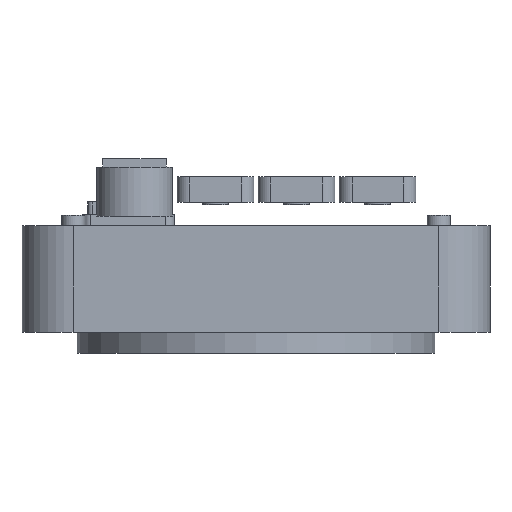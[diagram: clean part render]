
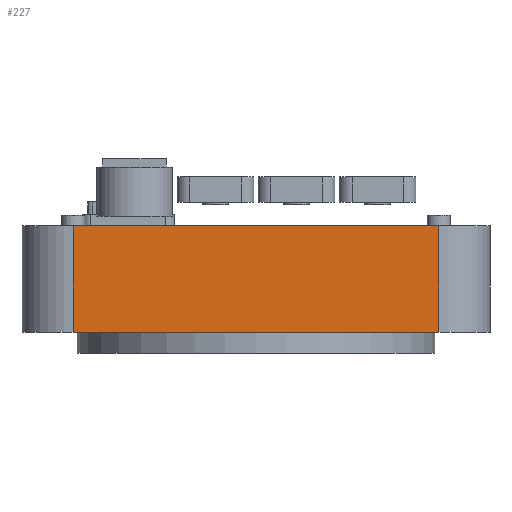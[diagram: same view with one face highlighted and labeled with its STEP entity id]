
A CAD part, left-side view. The second image highlights one B-rep face of the part: STEP entity #227.
In plain terms, the highlighted planar face has unit normal (-1, 0, 0).
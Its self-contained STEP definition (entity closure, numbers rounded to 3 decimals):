
#227 = ADVANCED_FACE('',(#228),#242,.F.);
#228 = FACE_BOUND('',#229,.F.);
#229 = EDGE_LOOP('',(#230,#265,#293,#321));
#230 = ORIENTED_EDGE('',*,*,#231,.F.);
#231 = EDGE_CURVE('',#232,#234,#236,.T.);
#232 = VERTEX_POINT('',#233);
#233 = CARTESIAN_POINT('',(-55.,-43.,25.));
#234 = VERTEX_POINT('',#235);
#235 = CARTESIAN_POINT('',(-55.,43.,25.));
#236 = SURFACE_CURVE('',#237,(#241,#253),.PCURVE_S1.);
#237 = LINE('',#238,#239);
#238 = CARTESIAN_POINT('',(-55.,-55.,25.));
#239 = VECTOR('',#240,1.);
#240 = DIRECTION('',(0.,1.,0.));
#241 = PCURVE('',#242,#247);
#242 = PLANE('',#243);
#243 = AXIS2_PLACEMENT_3D('',#244,#245,#246);
#244 = CARTESIAN_POINT('',(-55.,-55.,0.));
#245 = DIRECTION('',(1.,0.,0.));
#246 = DIRECTION('',(0.,0.,1.));
#247 = DEFINITIONAL_REPRESENTATION('',(#248),#252);
#248 = LINE('',#249,#250);
#249 = CARTESIAN_POINT('',(25.,0.));
#250 = VECTOR('',#251,1.);
#251 = DIRECTION('',(0.,-1.));
#252 = ( GEOMETRIC_REPRESENTATION_CONTEXT(2) 
PARAMETRIC_REPRESENTATION_CONTEXT() REPRESENTATION_CONTEXT('2D SPACE',''
  ) );
#253 = PCURVE('',#254,#259);
#254 = PLANE('',#255);
#255 = AXIS2_PLACEMENT_3D('',#256,#257,#258);
#256 = CARTESIAN_POINT('',(-55.,-55.,25.));
#257 = DIRECTION('',(0.,0.,1.));
#258 = DIRECTION('',(1.,0.,0.));
#259 = DEFINITIONAL_REPRESENTATION('',(#260),#264);
#260 = LINE('',#261,#262);
#261 = CARTESIAN_POINT('',(0.,0.));
#262 = VECTOR('',#263,1.);
#263 = DIRECTION('',(0.,1.));
#264 = ( GEOMETRIC_REPRESENTATION_CONTEXT(2) 
PARAMETRIC_REPRESENTATION_CONTEXT() REPRESENTATION_CONTEXT('2D SPACE',''
  ) );
#265 = ORIENTED_EDGE('',*,*,#266,.F.);
#266 = EDGE_CURVE('',#267,#232,#269,.T.);
#267 = VERTEX_POINT('',#268);
#268 = CARTESIAN_POINT('',(-55.,-43.,0.));
#269 = SURFACE_CURVE('',#270,(#274,#281),.PCURVE_S1.);
#270 = LINE('',#271,#272);
#271 = CARTESIAN_POINT('',(-55.,-43.,0.));
#272 = VECTOR('',#273,1.);
#273 = DIRECTION('',(0.,0.,1.));
#274 = PCURVE('',#242,#275);
#275 = DEFINITIONAL_REPRESENTATION('',(#276),#280);
#276 = LINE('',#277,#278);
#277 = CARTESIAN_POINT('',(0.,-12.));
#278 = VECTOR('',#279,1.);
#279 = DIRECTION('',(1.,0.));
#280 = ( GEOMETRIC_REPRESENTATION_CONTEXT(2) 
PARAMETRIC_REPRESENTATION_CONTEXT() REPRESENTATION_CONTEXT('2D SPACE',''
  ) );
#281 = PCURVE('',#282,#287);
#282 = CYLINDRICAL_SURFACE('',#283,12.);
#283 = AXIS2_PLACEMENT_3D('',#284,#285,#286);
#284 = CARTESIAN_POINT('',(-43.,-43.,0.));
#285 = DIRECTION('',(0.,0.,1.));
#286 = DIRECTION('',(-1.,-0.,0.));
#287 = DEFINITIONAL_REPRESENTATION('',(#288),#292);
#288 = LINE('',#289,#290);
#289 = CARTESIAN_POINT('',(0.,0.));
#290 = VECTOR('',#291,1.);
#291 = DIRECTION('',(0.,1.));
#292 = ( GEOMETRIC_REPRESENTATION_CONTEXT(2) 
PARAMETRIC_REPRESENTATION_CONTEXT() REPRESENTATION_CONTEXT('2D SPACE',''
  ) );
#293 = ORIENTED_EDGE('',*,*,#294,.T.);
#294 = EDGE_CURVE('',#267,#295,#297,.T.);
#295 = VERTEX_POINT('',#296);
#296 = CARTESIAN_POINT('',(-55.,43.,0.));
#297 = SURFACE_CURVE('',#298,(#302,#309),.PCURVE_S1.);
#298 = LINE('',#299,#300);
#299 = CARTESIAN_POINT('',(-55.,-55.,0.));
#300 = VECTOR('',#301,1.);
#301 = DIRECTION('',(0.,1.,0.));
#302 = PCURVE('',#242,#303);
#303 = DEFINITIONAL_REPRESENTATION('',(#304),#308);
#304 = LINE('',#305,#306);
#305 = CARTESIAN_POINT('',(0.,0.));
#306 = VECTOR('',#307,1.);
#307 = DIRECTION('',(0.,-1.));
#308 = ( GEOMETRIC_REPRESENTATION_CONTEXT(2) 
PARAMETRIC_REPRESENTATION_CONTEXT() REPRESENTATION_CONTEXT('2D SPACE',''
  ) );
#309 = PCURVE('',#310,#315);
#310 = PLANE('',#311);
#311 = AXIS2_PLACEMENT_3D('',#312,#313,#314);
#312 = CARTESIAN_POINT('',(-55.,-55.,0.));
#313 = DIRECTION('',(0.,0.,1.));
#314 = DIRECTION('',(1.,0.,0.));
#315 = DEFINITIONAL_REPRESENTATION('',(#316),#320);
#316 = LINE('',#317,#318);
#317 = CARTESIAN_POINT('',(0.,0.));
#318 = VECTOR('',#319,1.);
#319 = DIRECTION('',(0.,1.));
#320 = ( GEOMETRIC_REPRESENTATION_CONTEXT(2) 
PARAMETRIC_REPRESENTATION_CONTEXT() REPRESENTATION_CONTEXT('2D SPACE',''
  ) );
#321 = ORIENTED_EDGE('',*,*,#322,.T.);
#322 = EDGE_CURVE('',#295,#234,#323,.T.);
#323 = SURFACE_CURVE('',#324,(#328,#335),.PCURVE_S1.);
#324 = LINE('',#325,#326);
#325 = CARTESIAN_POINT('',(-55.,43.,0.));
#326 = VECTOR('',#327,1.);
#327 = DIRECTION('',(0.,0.,1.));
#328 = PCURVE('',#242,#329);
#329 = DEFINITIONAL_REPRESENTATION('',(#330),#334);
#330 = LINE('',#331,#332);
#331 = CARTESIAN_POINT('',(0.,-98.));
#332 = VECTOR('',#333,1.);
#333 = DIRECTION('',(1.,0.));
#334 = ( GEOMETRIC_REPRESENTATION_CONTEXT(2) 
PARAMETRIC_REPRESENTATION_CONTEXT() REPRESENTATION_CONTEXT('2D SPACE',''
  ) );
#335 = PCURVE('',#336,#341);
#336 = CYLINDRICAL_SURFACE('',#337,12.);
#337 = AXIS2_PLACEMENT_3D('',#338,#339,#340);
#338 = CARTESIAN_POINT('',(-43.,43.,0.));
#339 = DIRECTION('',(0.,0.,1.));
#340 = DIRECTION('',(-1.,-0.,0.));
#341 = DEFINITIONAL_REPRESENTATION('',(#342),#346);
#342 = LINE('',#343,#344);
#343 = CARTESIAN_POINT('',(-0.,0.));
#344 = VECTOR('',#345,1.);
#345 = DIRECTION('',(-0.,1.));
#346 = ( GEOMETRIC_REPRESENTATION_CONTEXT(2) 
PARAMETRIC_REPRESENTATION_CONTEXT() REPRESENTATION_CONTEXT('2D SPACE',''
  ) );
